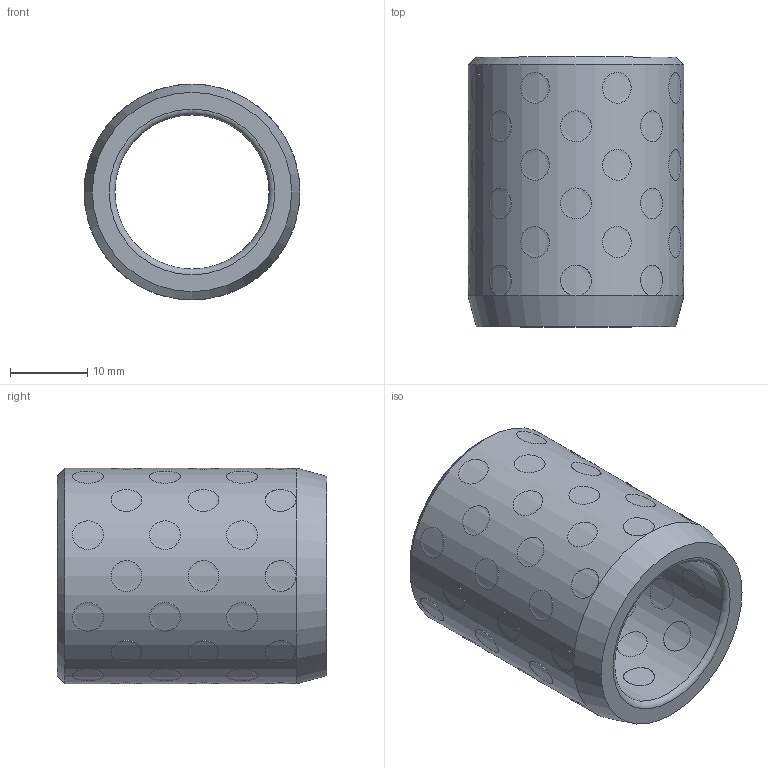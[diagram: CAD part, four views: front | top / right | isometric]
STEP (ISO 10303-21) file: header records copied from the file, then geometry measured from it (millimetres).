
FILE_DESCRIPTION( ( 'STEP AP203' ), '1' );
FILE_NAME( 'D:/Cuma/18 03 2010/D30.04/D30.04_203528.step', '2003-01-24T23:26:28', ( ' ' ), ( ' ' ), 'XStep 1.0', ' ', ' ' );
FILE_SCHEMA( ( 'CONFIG_CONTROL_DESIGN' ) );
Length unit declared in the file: metre
Products named in the file (57): 1; 2; 3; 4; 5; 6; 7; 8; 9; 10; 11; 12; 13; 14; 15; 16; 17; 18; 19; 20; 21; 22; 23; 24; 25; 26; 27; 28; 29; 30; 31; 32; 33; 34; 35; 36; 37; 38; 39; 40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
Bounding box: 28 x 35 x 28 mm (x, y, z)
Volume: 13138.6 mm3; surface area: 9944.2 mm2
Topology: 57 solids, 57 shells, 176 faces, 182 edges, 120 vertices
Faces by surface type: cylinder 170, torus 2, plane 2, cone 2
Full cylindrical faces by diameter (mm): 4 x56, 20 x1, 28 x1
Entity records: 11077 total; most frequent: CARTESIAN_POINT 6409, DIRECTION 482, CC_DESIGN_PERSON_AND_ORGANIZATION_ASSIGNMENT 285, AXIS2_PLACEMENT_3D 241, EDGE_LOOP 240, ORIENTED_EDGE 240, FACE_OUTER_BOUND 236, PERSON_AND_ORGANIZATION_ROLE 228
